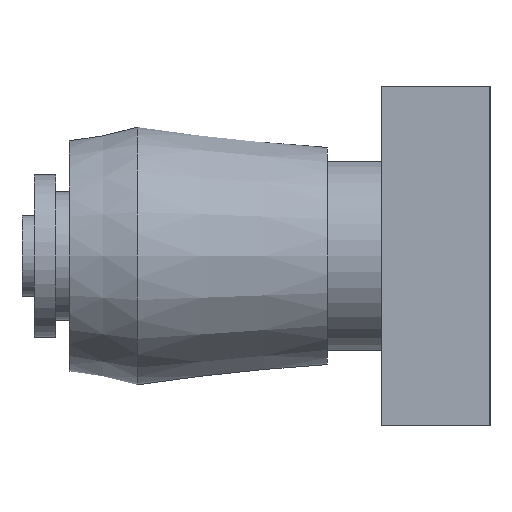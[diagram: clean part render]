
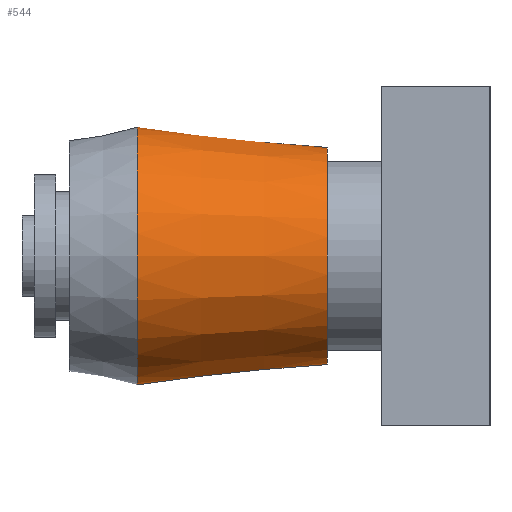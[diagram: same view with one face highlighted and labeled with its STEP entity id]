
A CAD part, left-side view. The second image highlights one B-rep face of the part: STEP entity #544.
In plain terms, the highlighted conical face has half-angle 6.116 degrees and reference radius 8.75 mm.
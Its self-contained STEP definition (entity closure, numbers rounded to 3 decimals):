
#76=CONICAL_SURFACE('',#596,8.75,6.116);
#102=FACE_BOUND('',#192,.T.);
#148=FACE_OUTER_BOUND('',#191,.T.);
#191=EDGE_LOOP('',(#427));
#192=EDGE_LOOP('',(#428));
#276=CIRCLE('',#597,9.5);
#277=CIRCLE('',#598,8.);
#318=VERTEX_POINT('',#893);
#319=VERTEX_POINT('',#895);
#368=EDGE_CURVE('',#318,#318,#276,.T.);
#369=EDGE_CURVE('',#319,#319,#277,.T.);
#427=ORIENTED_EDGE('',*,*,#368,.F.);
#428=ORIENTED_EDGE('',*,*,#369,.T.);
#544=ADVANCED_FACE('',(#148,#102),#76,.T.);
#596=AXIS2_PLACEMENT_3D('',#892,#699,#700);
#597=AXIS2_PLACEMENT_3D('',#894,#701,#702);
#598=AXIS2_PLACEMENT_3D('',#896,#703,#704);
#699=DIRECTION('center_axis',(0.,1.,0.));
#700=DIRECTION('ref_axis',(-1.,0.,0.));
#701=DIRECTION('center_axis',(0.,1.,0.));
#702=DIRECTION('ref_axis',(-1.,0.,0.));
#703=DIRECTION('center_axis',(0.,1.,0.));
#704=DIRECTION('ref_axis',(-1.,0.,0.));
#892=CARTESIAN_POINT('Origin',(0.,7.,0.));
#893=CARTESIAN_POINT('',(-9.5,14.,0.));
#894=CARTESIAN_POINT('Origin',(0.,14.,0.));
#895=CARTESIAN_POINT('',(-8.,0.,0.));
#896=CARTESIAN_POINT('Origin',(0.,0.,0.));
